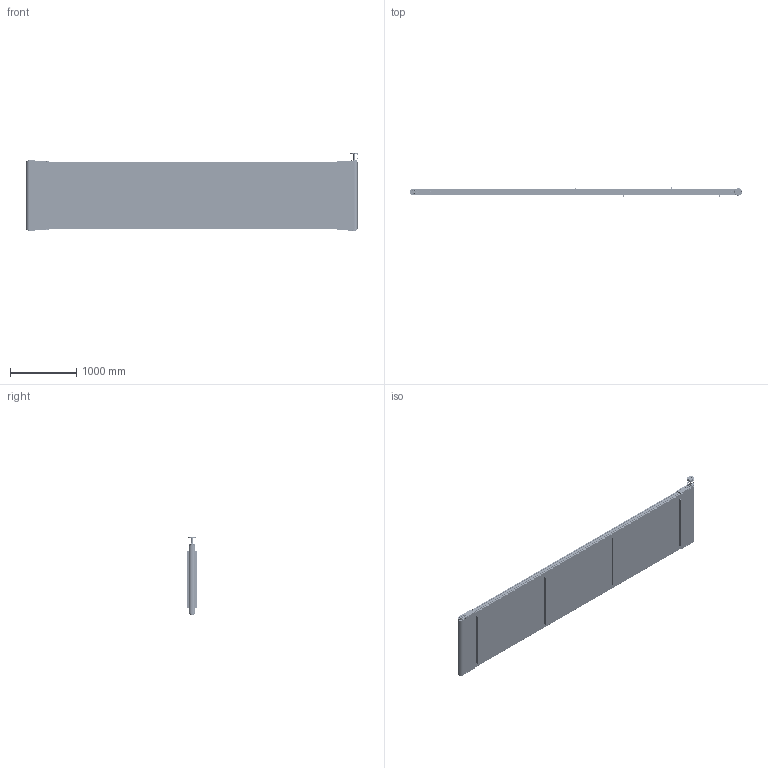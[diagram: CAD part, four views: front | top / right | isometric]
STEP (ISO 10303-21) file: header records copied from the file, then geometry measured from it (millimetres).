
FILE_DESCRIPTION (( 'STEP AP203' ), '1' );
FILE_NAME ('NASTRO_RETTILINEO_TAPPETO.step', '2026-06-02T08:26:28', ( 'Utente Windows' ), ( '' ), 'SwSTEP 2.0', 'SolidWorks 2024', '' );
FILE_SCHEMA (( 'CONFIG_CONTROL_DESIGN' ));
Length unit declared in the file: millimetre
Products named in the file (40): 084.803.003; LAMIERA_STANDARD; BLOCCO_TRAINO_95_STANDARD_49_DX_CON TENDINASTRO E SENZA CARTER; 084.302.060; 084.802.071; 084.802.068; 084.803.017; VITI TCEI UNI 5931_M4x25 UNI 5931; PERNO_95_RINVIO_CINGHIE; VITE_RONDELLA_M8X20; 084.802.067_Default<A macchina>; 084.303.001; VITI TCEI UNI 5931_M6x12 UNI 5931; VITI TSEI UNI 5933_M5x12 UNI 5933; RULLO_95_CINGHIE_Default<A macchina>; BLOCCO_RINVIO_95_STANDARD_CON TENDINASTRO E CARTER; PERNO_95_TRAINO_CINGHIE_49_DX_Default<A macchina>; 084.802.060_Default<A macchina>; NASTRO_RETTILINEO_TAPPETO; 084.802.034_084.802.034; 084.802.019_084.802.019; 0820ISO2342; BLOCCO_BRACCIO_CH05P_CH05P; TAPPETO_STANDARD_CINGHIE; VITE_DADO_M5X12; 084.302.000 DADI ALUSIC 13x13-1_084.302.004; 449.014.106; 084.302.000 DADI ALUSIC 13x13-1_084.302.007; 084.808.003_084.808.003; VITI TSEI UNI 5933_M4x12 UNI 5933; 084.301.000 VITI ALUSIC_084.301.003; BLOCCO_TRAINO_95_STANDARD_CON TENDINASTRO E CARTER; 084.802.062; 084.808.002_084.808.002; TELAIO_95_CINGHIE_Default<A macchina>; 084.808.013; VITI TE UNI 5739_M6x12 UNI 5739; DADO ESAGONALE M30 AUTOBLOCCANTE UNI 7473_M30 UNI 7473; VITI TE UNI 5739_M8x12 UNI 5739; GUIDA_CINGHIA_Z_95
Assembly tree (147 placements, depth 4):
  NASTRO_RETTILINEO_TAPPETO
    TAPPETO_STANDARD_CINGHIE
    TELAIO_95_CINGHIE_Default<A macchina>
    LAMIERA_STANDARD  x3
    RULLO_95_CINGHIE_Default<A macchina>  x2
    PERNO_95_TRAINO_CINGHIE_49_DX_Default<A macchina>
    BLOCCO_TRAINO_95_STANDARD_49_DX_CON TENDINASTRO E SENZA CARTER
      084.808.003_084.808.003
      084.302.060  x2
      084.802.034_084.802.034
      084.301.000 VITI ALUSIC_084.301.003  x6
      084.802.067_Default<A macchina>
      VITI TCEI UNI 5931_M4x25 UNI 5931  x2
      BLOCCO_BRACCIO_CH05P_CH05P
        084.808.013
        084.802.062
        0820ISO2342
        084.802.060_Default<A macchina>
        VITI TE UNI 5739_M8x12 UNI 5739  x4
        VITI TE UNI 5739_M6x12 UNI 5739  x4
        084.803.017
        VITI TCEI UNI 5931_M6x12 UNI 5931  x4
    BLOCCO_TRAINO_95_STANDARD_CON TENDINASTRO E CARTER
      084.808.002_084.808.002
      084.302.060  x2
      084.802.019_084.802.019
      084.301.000 VITI ALUSIC_084.301.003  x6
      VITI TCEI UNI 5931_M4x25 UNI 5931  x2
      084.802.071
      084.802.068
      VITI TSEI UNI 5933_M4x12 UNI 5933  x2
    GUIDA_CINGHIA_Z_95  x6
      449.014.106
      DADO ESAGONALE M30 AUTOBLOCCANTE UNI 7473_M30 UNI 7473
    PERNO_95_RINVIO_CINGHIE
    BLOCCO_RINVIO_95_STANDARD_CON TENDINASTRO E CARTER  x2
      084.808.002_084.808.002
      084.803.003
      084.302.060
      084.802.019_084.802.019
      VITI TSEI UNI 5933_M4x12 UNI 5933
      084.302.000 DADI ALUSIC 13x13-1_084.302.004
      084.301.000 VITI ALUSIC_084.301.003
      084.802.071
    VITE_RONDELLA_M8X20  x33
      084.303.001
      084.301.000 VITI ALUSIC_084.301.003
    VITE_DADO_M5X12  x24
      084.302.000 DADI ALUSIC 13x13-1_084.302.007
      VITI TSEI UNI 5933_M5x12 UNI 5933
Bounding box: 5006.5 x 159 x 1184 mm (x, y, z)
Volume: 64744603.4 mm3; surface area: 48890312 mm2
Topology: 271 solids, 274 shells, 9387 faces, 23807 edges, 15112 vertices
Faces by surface type: plane 5015, cylinder 2381, cone 881, bspline 599, torus 455, sphere 56
Entity records: 179344 total; most frequent: CARTESIAN_POINT 53986, ORIENTED_EDGE 25842, DIRECTION 23448, EDGE_CURVE 12921, VERTEX_POINT 8255, AXIS2_PLACEMENT_3D 7916, LINE 7616, VECTOR 7616
